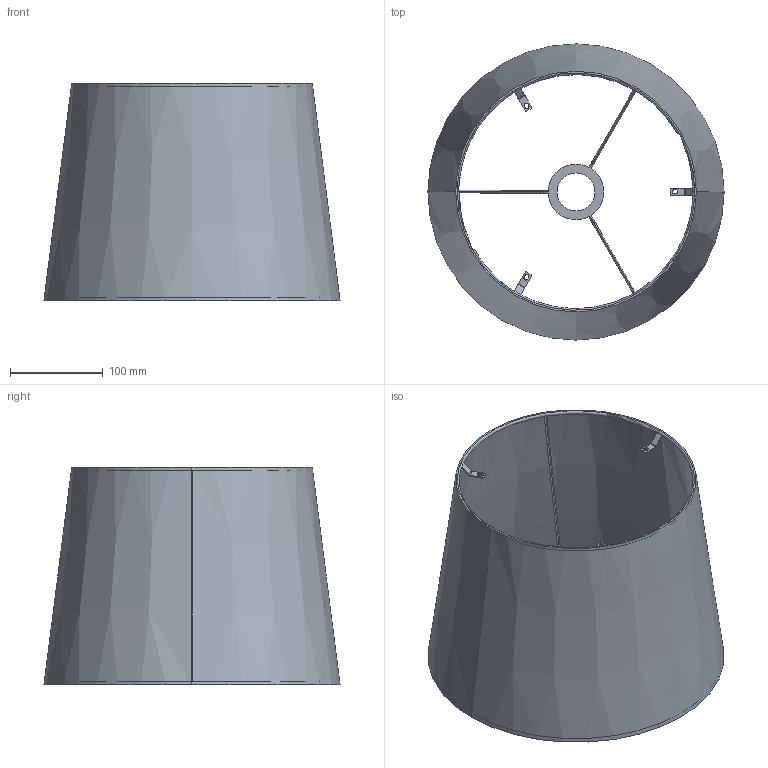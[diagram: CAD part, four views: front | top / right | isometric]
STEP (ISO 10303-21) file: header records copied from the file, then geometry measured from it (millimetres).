
FILE_DESCRIPTION(/* description */ (''),/* implementation_level */ '2;1');
FILE_NAME(/* name */ 'C:\Users\francosartori\Documents\Modelos\01_Indoor\1_SAVOY\03_Publicación\20302_20303\20314.stp',/* time_stamp */ '2020-05-21T12:14:58+02:00',/* author */ ('FrancoSartori'),/* organization */ (''),/* preprocessor_version */ 'ST-DEVELOPER v18.1',/* originating_system */ 'AutoCAD Mechanical',/* authorisation */ '');
FILE_SCHEMA (('AUTOMOTIVE_DESIGN { 1 0 10303 214 3 1 1 }'));
Length unit declared in the file: millimetre
Products named in the file (2): Product; 20313_20314_20315_SAVOY - SAVOY TABLE SHADE-436478-_3D_
Assembly tree (1 placements, depth 2):
  Product
    20313_20314_20315_SAVOY - SAVOY TABLE SHADE-436478-_3D_
Bounding box: 320 x 320 x 235 mm (x, y, z)
Volume: 208281.3 mm3; surface area: 867403.4 mm2
Topology: 2 solids, 3 shells, 78 faces, 226 edges, 144 vertices
Faces by surface type: plane 32, cylinder 28, torus 10, cone 8
Entity records: 3807 total; most frequent: CARTESIAN_POINT 1788, ORIENTED_EDGE 404, DIRECTION 378, EDGE_CURVE 226, VERTEX_POINT 144, AXIS2_PLACEMENT_3D 136, LINE 106, VECTOR 106
